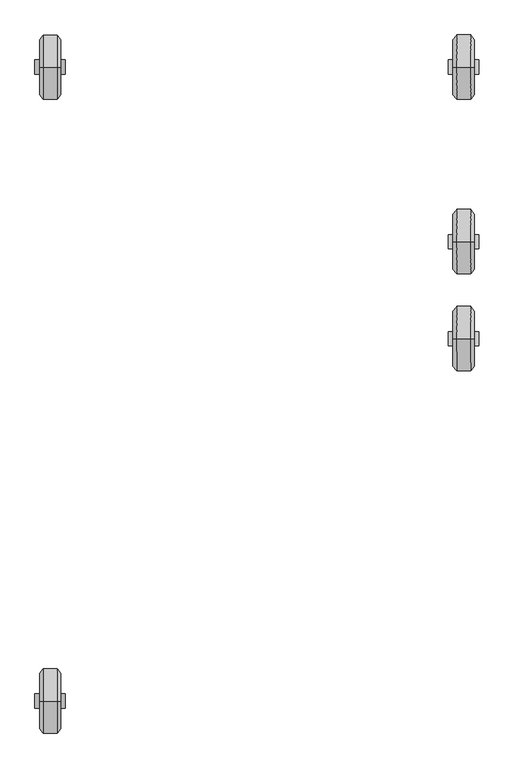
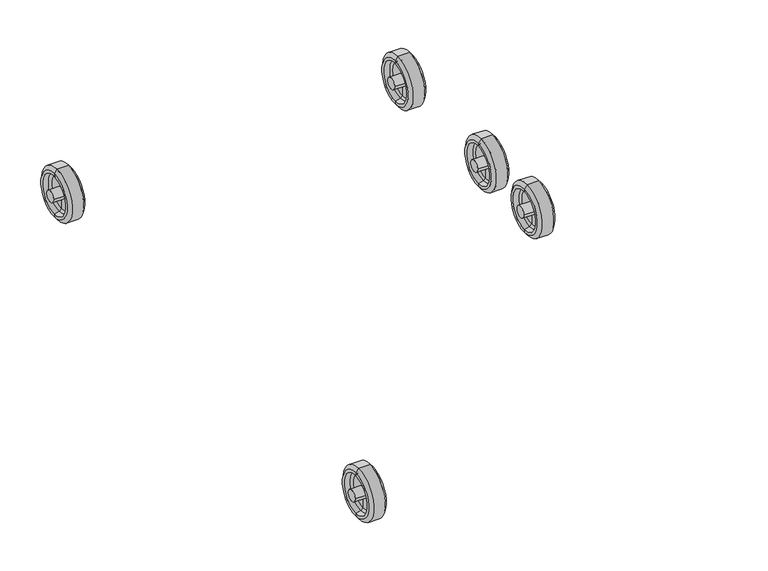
"""IFC4 building model written with IfcOpenShell, lengths in millimetres: proxy geometry, 12290890_D_APDR024 : 59520024_D_12290890_APDR024."""

from ifc_helpers import new_model, si_unit, frame, origin, place, context, project, spatial, polyline, circle_curve, source, transform, mapped, element, save
from ifc_brep_helpers import plane_surface, cylinder_surface, revolved_surface, advanced_brep


def specialty_equipment_95572415(model_context):
    return source(origin(), model_context, "Body", "AdvancedBrep", [
        advanced_brep(
        [(-336.0364395, -79.7871295, 48.7198946), (-336.0364395, -58.1869098, 48.7198946), (-289.9642929, -79.7871295, 48.7198946), (-289.9642929, -58.1869098, 48.7198946), (-315.5003662, -58.1869098, 48.7198946), (-315.5003662, -68.9870197, 37.9197847), (-315.5003662, -79.7871295, 48.7198946), (-310.5038522, -79.7871295, 48.7198946), (-310.5038522, -68.9870197, 37.9197847), (-310.5038522, -58.1869098, 48.7198946), (-315.5003662, -68.9870197, 59.5200044), (-310.5038522, -68.9870197, 59.5200044), (-315.5003662, -68.9870197, 18.1495325), (-315.5003662, -68.9870197, 79.2675668), (-319.3935864, -68.9870197, 83.160787), (-319.3935864, -68.9870197, 14.2563123), (-329.0003662, -68.9870197, 11.8821212), (-329.0003662, -68.9870197, 85.5349781), (-329.0003662, -68.9870197, 90.6387254), (-329.0003662, -68.9870197, 6.7783739), (-323.6582031, -68.9870197, 97.439563), (-323.6582031, -68.9870197, -0.0224636), (-302.3460153, -68.9870197, 97.439563), (-302.3460153, -68.9870197, -0.0224636), (-297.0038522, -68.9870197, 90.6387254), (-297.0038522, -68.9870197, 6.7783739), (-297.0038522, -68.9870197, 85.5349781), (-297.0038522, -68.9870197, 11.8821212), (-310.5038522, -68.9870197, 18.1495325), (-310.5038522, -68.9870197, 79.2675668), (-306.6106321, -68.9870197, 83.160787), (-306.6106321, -68.9870197, 14.2563123)],
        [
            (0, 1, circle_curve(frame((-336.0364395, -68.9870197, 48.7198946), z_axis=(-1.0, 0.0, 0.0), x_axis=(0.0, 1.0, 0.0)), 10.8001099)),
            (1, 0, circle_curve(frame((-336.0364395, -68.9870197, 48.7198946), z_axis=(-1.0, 0.0, 0.0), x_axis=(0.0, 1.0, 0.0)), 10.8001099)),
            (2, 3, circle_curve(frame((-289.9642929, -68.9870197, 48.7198946), z_axis=(1.0, 0.0, 0.0), x_axis=(0.0, 1.0, 0.0)), 10.8001099)),
            (3, 2, circle_curve(frame((-289.9642929, -68.9870197, 48.7198946), z_axis=(1.0, 0.0, 0.0), x_axis=(0.0, 1.0, 0.0)), 10.8001099)),
            (1, 4),
            (4, 5, circle_curve(frame((-315.5003662, -68.9870197, 48.7198946), z_axis=(-1.0, 0.0, 0.0), x_axis=(0.0, 1.0, 0.0)), 10.8001099)),
            (5, 6, circle_curve(frame((-315.5003662, -68.9870197, 48.7198946), z_axis=(-1.0, 0.0, 0.0), x_axis=(0.0, 1.0, 0.0)), 10.8001099)),
            (6, 0),
            (2, 7),
            (7, 8, circle_curve(frame((-310.5038522, -68.9870197, 48.7198946), z_axis=(1.0, 0.0, 0.0), x_axis=(0.0, 1.0, 0.0)), 10.8001099)),
            (8, 9, circle_curve(frame((-310.5038522, -68.9870197, 48.7198946), z_axis=(1.0, 0.0, 0.0), x_axis=(0.0, 1.0, 0.0)), 10.8001099)),
            (9, 3),
            (6, 10, circle_curve(frame((-315.5003662, -68.9870197, 48.7198946), z_axis=(-1.0, 0.0, 0.0), x_axis=(0.0, 1.0, 0.0)), 10.8001099)),
            (10, 4, circle_curve(frame((-315.5003662, -68.9870197, 48.7198946), z_axis=(-1.0, 0.0, 0.0), x_axis=(0.0, 1.0, 0.0)), 10.8001099)),
            (9, 11, circle_curve(frame((-310.5038522, -68.9870197, 48.7198946), z_axis=(1.0, 0.0, 0.0), x_axis=(0.0, 1.0, 0.0)), 10.8001099)),
            (11, 7, circle_curve(frame((-310.5038522, -68.9870197, 48.7198946), z_axis=(1.0, 0.0, 0.0), x_axis=(0.0, 1.0, 0.0)), 10.8001099)),
            (12, 13, circle_curve(frame((-315.5003662, -68.9870197, 48.7085497), z_axis=(1.0, 0.0, 0.0), x_axis=(0.0, 0.0, 1.0)), 30.5590172)),
            (13, 14),
            (14, 15, circle_curve(frame((-319.3935864, -68.9870197, 48.7085497), z_axis=(-1.0, 0.0, 0.0), x_axis=(0.0, 0.0, 1.0)), 34.4522373)),
            (15, 12),
            (13, 12, circle_curve(frame((-315.5003662, -68.9870197, 48.7085497), z_axis=(1.0, 0.0, 0.0), x_axis=(0.0, 0.0, 1.0)), 30.5590172)),
            (15, 14, circle_curve(frame((-319.3935864, -68.9870197, 48.7085497), z_axis=(-1.0, 0.0, 0.0), x_axis=(0.0, 0.0, 1.0)), 34.4522373)),
            (16, 17, circle_curve(frame((-329.0003662, -68.9870197, 48.7085497), z_axis=(1.0, 0.0, 0.0), x_axis=(0.0, 0.0, 1.0)), 36.8264284)),
            (17, 18),
            (18, 19, circle_curve(frame((-329.0003662, -68.9870197, 48.7085497), z_axis=(-1.0, 0.0, 0.0), x_axis=(0.0, 0.0, 1.0)), 41.9301758)),
            (19, 16),
            (17, 16, circle_curve(frame((-329.0003662, -68.9870197, 48.7085497), z_axis=(1.0, 0.0, 0.0), x_axis=(0.0, 0.0, 1.0)), 36.8264284)),
            (19, 18, circle_curve(frame((-329.0003662, -68.9870197, 48.7085497), z_axis=(-1.0, 0.0, 0.0), x_axis=(0.0, 0.0, 1.0)), 41.9301758)),
            (18, 20),
            (20, 21, circle_curve(frame((-323.6582031, -68.9870197, 48.7085497), z_axis=(-1.0, 0.0, 0.0), x_axis=(0.0, 0.0, 1.0)), 48.7310133)),
            (21, 19),
            (21, 20, circle_curve(frame((-323.6582031, -68.9870197, 48.7085497), z_axis=(-1.0, 0.0, 0.0), x_axis=(0.0, 0.0, 1.0)), 48.7310133)),
            (20, 22),
            (22, 23, circle_curve(frame((-302.3460153, -68.9870197, 48.7085497), z_axis=(-1.0, 0.0, 0.0), x_axis=(0.0, 0.0, 1.0)), 48.7310133)),
            (23, 21),
            (23, 22, circle_curve(frame((-302.3460153, -68.9870197, 48.7085497), z_axis=(-1.0, 0.0, 0.0), x_axis=(0.0, 0.0, 1.0)), 48.7310133)),
            (22, 24),
            (24, 25, circle_curve(frame((-297.0038522, -68.9870197, 48.7085497), z_axis=(-1.0, 0.0, 0.0), x_axis=(0.0, 0.0, 1.0)), 41.9301758)),
            (25, 23),
            (25, 24, circle_curve(frame((-297.0038522, -68.9870197, 48.7085497), z_axis=(-1.0, 0.0, 0.0), x_axis=(0.0, 0.0, 1.0)), 41.9301758)),
            (24, 26),
            (26, 27, circle_curve(frame((-297.0038522, -68.9870197, 48.7085497), z_axis=(-1.0, 0.0, 0.0), x_axis=(0.0, 0.0, 1.0)), 36.8264284)),
            (27, 25),
            (27, 26, circle_curve(frame((-297.0038522, -68.9870197, 48.7085497), z_axis=(-1.0, 0.0, 0.0), x_axis=(0.0, 0.0, 1.0)), 36.8264284)),
            (28, 29, circle_curve(frame((-310.5038522, -68.9870197, 48.7085497), z_axis=(1.0, 0.0, 0.0), x_axis=(0.0, 0.0, 1.0)), 30.5590172)),
            (29, 11),
            (8, 28),
            (29, 28, circle_curve(frame((-310.5038522, -68.9870197, 48.7085497), z_axis=(1.0, 0.0, 0.0), x_axis=(0.0, 0.0, 1.0)), 30.5590172)),
            (12, 5),
            (10, 13),
            (14, 17),
            (16, 15),
            (26, 30),
            (30, 31, circle_curve(frame((-306.6106321, -68.9870197, 48.7085497), z_axis=(-1.0, 0.0, 0.0), x_axis=(0.0, 0.0, 1.0)), 34.4522373)),
            (31, 27),
            (31, 30, circle_curve(frame((-306.6106321, -68.9870197, 48.7085497), z_axis=(-1.0, 0.0, 0.0), x_axis=(0.0, 0.0, 1.0)), 34.4522373)),
            (28, 31),
            (30, 29),
        ],
        [
            plane_surface(frame((-336.0364395, -58.1869098, 48.7198946), z_axis=(-1.0, 0.0, 0.0), x_axis=(0.0, 0.0, -1.0))),
            plane_surface(frame((-289.9642929, -58.1869098, 48.7198946), z_axis=(1.0, 0.0, 0.0), x_axis=(0.0, 0.0, 1.0))),
            cylinder_surface(frame((-289.9642929, -68.9870197, 48.7198946), z_axis=(-1.0, 0.0, 0.0), x_axis=(0.0, 1.0, 0.0)), 10.8001099),
            revolved_surface(polyline([(-319.3935864, -68.9870197, 83.160787), (-315.5003662, -68.9870197, 79.2675668)]), (-291.9215088, -68.9870197, 48.7085497), (-1.0, 0.0, 0.0)),
            plane_surface(frame((-329.0003662, -68.9870197, 48.7085497), z_axis=(-1.0, 0.0, 0.0), x_axis=(0.0, 0.0, 1.0))),
            revolved_surface(polyline([(-323.6582031, -68.9870197, 97.439563), (-329.0003662, -68.9870197, 90.6387254)]), (-291.9215088, -68.9870197, 48.7085497), (-1.0, 0.0, 0.0)),
            cylinder_surface(frame((-291.9215088, -68.9870197, 48.7085497), z_axis=(-1.0, 0.0, 0.0), x_axis=(0.0, 0.0, 1.0)), 48.7310133),
            revolved_surface(polyline([(-297.0038522, -68.9870197, 90.6387254), (-302.3460153, -68.9870197, 97.439563)]), (-291.9215088, -68.9870197, 48.7085497), (-1.0, 0.0, 0.0)),
            plane_surface(frame((-297.0038522, -68.9870197, 48.7085497), z_axis=(1.0, 0.0, 0.0), x_axis=(0.0, 0.0, 1.0))),
            plane_surface(frame((-310.5038522, -68.9870197, 48.7085497), z_axis=(1.0, 0.0, 0.0), x_axis=(0.0, 0.0, 1.0))),
            plane_surface(frame((-315.5003662, -68.9870197, 48.7085497), z_axis=(-1.0, 0.0, 0.0), x_axis=(0.0, 0.0, 1.0))),
            revolved_surface(polyline([(-329.0003662, -68.9870197, 85.5349781), (-319.3935864, -68.9870197, 83.160787)]), (-291.9215088, -68.9870197, 48.7085497), (-1.0, 0.0, 0.0)),
            revolved_surface(polyline([(-306.6106321, -68.9870197, 83.160787), (-297.0038522, -68.9870197, 85.5349781)]), (-291.9215088, -68.9870197, 48.7085497), (-1.0, 0.0, 0.0)),
            revolved_surface(polyline([(-310.5038522, -68.9870197, 79.2675668), (-306.6106321, -68.9870197, 83.160787)]), (-291.9215088, -68.9870197, 48.7085497), (-1.0, 0.0, 0.0)),
        ],
        [
            (0, [[1, 2]]),
            (1, [[3, 4]]),
            (2, [[-2, 5, 6, 7, 8]]),
            (2, [[-3, 9, 10, 11, 12]]),
            (2, [[-1, -8, 13, 14, -5]]),
            (2, [[-4, -12, 15, 16, -9]]),
            (3, [[17, 18, 19, 20]]),
            (3, [[-18, 21, -20, 22]]),
            (4, [[23, 24, 25, 26]]),
            (4, [[-24, 27, -26, 28]]),
            (5, [[-25, 29, 30, 31]]),
            (5, [[-28, -31, 32, -29]]),
            (6, [[-30, 33, 34, 35]]),
            (6, [[-32, -35, 36, -33]]),
            (7, [[-34, 37, 38, 39]]),
            (7, [[-36, -39, 40, -37]]),
            (8, [[-38, 41, 42, 43]]),
            (8, [[-40, -43, 44, -41]]),
            (9, [[45, 46, -15, -11, 47]]),
            (9, [[48, -47, -10, -16, -46]]),
            (10, [[-17, 49, -6, -14, 50]]),
            (10, [[-21, -50, -13, -7, -49]]),
            (11, [[-19, 51, -23, 52]]),
            (11, [[-22, -52, -27, -51]]),
            (12, [[-42, 53, 54, 55]]),
            (12, [[-44, -55, 56, -53]]),
            (13, [[-45, 57, -54, 58]]),
            (13, [[-48, -58, -56, -57]]),
        ],
    ),
        advanced_brep(
        [(336.0364395, -79.7871295, 48.7198946), (336.0364395, -58.1869098, 48.7198946), (289.9642929, -79.7871295, 48.7198946), (289.9642929, -58.1869098, 48.7198946), (315.5003662, -79.7871295, 48.7198946), (315.5003662, -68.9870197, 37.9197847), (315.5003662, -58.1869098, 48.7198946), (310.5038522, -58.1869098, 48.7198946), (310.5038522, -68.9870197, 37.9197847), (310.5038522, -79.7871295, 48.7198946), (315.5003662, -68.9870197, 59.5200044), (310.5038522, -68.9870197, 59.5200044), (319.3935864, -68.9870197, 14.2563123), (319.3935864, -68.9870197, 83.160787), (315.5003662, -68.9870197, 79.2675668), (315.5003662, -68.9870197, 18.1495325), (329.0003662, -68.9870197, 6.7783739), (329.0003662, -68.9870197, 90.6387254), (329.0003662, -68.9870197, 85.5349781), (329.0003662, -68.9870197, 11.8821212), (323.6582031, -68.9870197, -0.0224636), (323.6582031, -68.9870197, 97.439563), (302.3460153, -68.9870197, -0.0224636), (302.3460153, -68.9870197, 97.439563), (297.0038522, -68.9870197, 6.7783739), (297.0038522, -68.9870197, 90.6387254), (297.0038522, -68.9870197, 11.8821212), (297.0038522, -68.9870197, 85.5349781), (310.5038522, -68.9870197, 79.2675668), (310.5038522, -68.9870197, 18.1495325), (306.6106321, -68.9870197, 14.2563123), (306.6106321, -68.9870197, 83.160787)],
        [
            (0, 1, circle_curve(frame((336.0364395, -68.9870197, 48.7198946), z_axis=(1.0, 0.0, 0.0), x_axis=(0.0, 1.0, 0.0)), 10.8001099)),
            (1, 0, circle_curve(frame((336.0364395, -68.9870197, 48.7198946), z_axis=(1.0, 0.0, 0.0), x_axis=(0.0, 1.0, 0.0)), 10.8001099)),
            (2, 3, circle_curve(frame((289.9642929, -68.9870197, 48.7198946), z_axis=(-1.0, 0.0, 0.0), x_axis=(0.0, 1.0, 0.0)), 10.8001099)),
            (3, 2, circle_curve(frame((289.9642929, -68.9870197, 48.7198946), z_axis=(-1.0, 0.0, 0.0), x_axis=(0.0, 1.0, 0.0)), 10.8001099)),
            (0, 4),
            (4, 5, circle_curve(frame((315.5003662, -68.9870197, 48.7198946), z_axis=(1.0, 0.0, 0.0), x_axis=(0.0, 1.0, 0.0)), 10.8001099)),
            (5, 6, circle_curve(frame((315.5003662, -68.9870197, 48.7198946), z_axis=(1.0, 0.0, 0.0), x_axis=(0.0, 1.0, 0.0)), 10.8001099)),
            (6, 1),
            (3, 7),
            (7, 8, circle_curve(frame((310.5038522, -68.9870197, 48.7198946), z_axis=(-1.0, 0.0, 0.0), x_axis=(0.0, 1.0, 0.0)), 10.8001099)),
            (8, 9, circle_curve(frame((310.5038522, -68.9870197, 48.7198946), z_axis=(-1.0, 0.0, 0.0), x_axis=(0.0, 1.0, 0.0)), 10.8001099)),
            (9, 2),
            (6, 10, circle_curve(frame((315.5003662, -68.9870197, 48.7198946), z_axis=(1.0, 0.0, 0.0), x_axis=(0.0, 1.0, 0.0)), 10.8001099)),
            (10, 4, circle_curve(frame((315.5003662, -68.9870197, 48.7198946), z_axis=(1.0, 0.0, 0.0), x_axis=(0.0, 1.0, 0.0)), 10.8001099)),
            (9, 11, circle_curve(frame((310.5038522, -68.9870197, 48.7198946), z_axis=(-1.0, 0.0, 0.0), x_axis=(0.0, 1.0, 0.0)), 10.8001099)),
            (11, 7, circle_curve(frame((310.5038522, -68.9870197, 48.7198946), z_axis=(-1.0, 0.0, 0.0), x_axis=(0.0, 1.0, 0.0)), 10.8001099)),
            (12, 13, circle_curve(frame((319.3935864, -68.9870197, 48.7085497), z_axis=(1.0, 0.0, 0.0), x_axis=(0.0, 0.0, 1.0)), 34.4522373)),
            (13, 14),
            (14, 15, circle_curve(frame((315.5003662, -68.9870197, 48.7085497), z_axis=(-1.0, 0.0, 0.0), x_axis=(0.0, 0.0, 1.0)), 30.5590172)),
            (15, 12),
            (13, 12, circle_curve(frame((319.3935864, -68.9870197, 48.7085497), z_axis=(1.0, 0.0, 0.0), x_axis=(0.0, 0.0, 1.0)), 34.4522373)),
            (15, 14, circle_curve(frame((315.5003662, -68.9870197, 48.7085497), z_axis=(-1.0, 0.0, 0.0), x_axis=(0.0, 0.0, 1.0)), 30.5590172)),
            (16, 17, circle_curve(frame((329.0003662, -68.9870197, 48.7085497), z_axis=(1.0, 0.0, 0.0), x_axis=(0.0, 0.0, 1.0)), 41.9301758)),
            (17, 18),
            (18, 19, circle_curve(frame((329.0003662, -68.9870197, 48.7085497), z_axis=(-1.0, 0.0, 0.0), x_axis=(0.0, 0.0, 1.0)), 36.8264284)),
            (19, 16),
            (17, 16, circle_curve(frame((329.0003662, -68.9870197, 48.7085497), z_axis=(1.0, 0.0, 0.0), x_axis=(0.0, 0.0, 1.0)), 41.9301758)),
            (19, 18, circle_curve(frame((329.0003662, -68.9870197, 48.7085497), z_axis=(-1.0, 0.0, 0.0), x_axis=(0.0, 0.0, 1.0)), 36.8264284)),
            (16, 20),
            (20, 21, circle_curve(frame((323.6582031, -68.9870197, 48.7085497), z_axis=(1.0, 0.0, 0.0), x_axis=(0.0, 0.0, 1.0)), 48.7310133)),
            (21, 17),
            (21, 20, circle_curve(frame((323.6582031, -68.9870197, 48.7085497), z_axis=(1.0, 0.0, 0.0), x_axis=(0.0, 0.0, 1.0)), 48.7310133)),
            (20, 22),
            (22, 23, circle_curve(frame((302.3460153, -68.9870197, 48.7085497), z_axis=(1.0, 0.0, 0.0), x_axis=(0.0, 0.0, 1.0)), 48.7310133)),
            (23, 21),
            (23, 22, circle_curve(frame((302.3460153, -68.9870197, 48.7085497), z_axis=(1.0, 0.0, 0.0), x_axis=(0.0, 0.0, 1.0)), 48.7310133)),
            (22, 24),
            (24, 25, circle_curve(frame((297.0038522, -68.9870197, 48.7085497), z_axis=(1.0, 0.0, 0.0), x_axis=(0.0, 0.0, 1.0)), 41.9301758)),
            (25, 23),
            (25, 24, circle_curve(frame((297.0038522, -68.9870197, 48.7085497), z_axis=(1.0, 0.0, 0.0), x_axis=(0.0, 0.0, 1.0)), 41.9301758)),
            (24, 26),
            (26, 27, circle_curve(frame((297.0038522, -68.9870197, 48.7085497), z_axis=(1.0, 0.0, 0.0), x_axis=(0.0, 0.0, 1.0)), 36.8264284)),
            (27, 25),
            (27, 26, circle_curve(frame((297.0038522, -68.9870197, 48.7085497), z_axis=(1.0, 0.0, 0.0), x_axis=(0.0, 0.0, 1.0)), 36.8264284)),
            (28, 29, circle_curve(frame((310.5038522, -68.9870197, 48.7085497), z_axis=(-1.0, 0.0, 0.0), x_axis=(0.0, 0.0, 1.0)), 30.5590172)),
            (29, 8),
            (11, 28),
            (29, 28, circle_curve(frame((310.5038522, -68.9870197, 48.7085497), z_axis=(-1.0, 0.0, 0.0), x_axis=(0.0, 0.0, 1.0)), 30.5590172)),
            (14, 10),
            (5, 15),
            (12, 19),
            (18, 13),
            (26, 30),
            (30, 31, circle_curve(frame((306.6106321, -68.9870197, 48.7085497), z_axis=(1.0, 0.0, 0.0), x_axis=(0.0, 0.0, 1.0)), 34.4522373)),
            (31, 27),
            (31, 30, circle_curve(frame((306.6106321, -68.9870197, 48.7085497), z_axis=(1.0, 0.0, 0.0), x_axis=(0.0, 0.0, 1.0)), 34.4522373)),
            (28, 31),
            (30, 29),
        ],
        [
            plane_surface(frame((336.0364395, -58.1869098, 48.7198946), z_axis=(1.0, 0.0, 0.0), x_axis=(0.0, 0.0, 1.0))),
            plane_surface(frame((289.9642929, -58.1869098, 48.7198946), z_axis=(-1.0, 0.0, 0.0), x_axis=(0.0, 0.0, -1.0))),
            cylinder_surface(frame((289.9642929, -68.9870197, 48.7198946), z_axis=(1.0, 0.0, 0.0), x_axis=(0.0, 1.0, 0.0)), 10.8001099),
            revolved_surface(polyline([(315.5003662, -68.9870197, 79.2675668), (319.3935864, -68.9870197, 83.160787)]), (291.9215088, -68.9870197, 48.7085497), (-1.0, 0.0, 0.0)),
            plane_surface(frame((329.0003662, -68.9870197, 48.7085497), z_axis=(1.0, 0.0, 0.0), x_axis=(0.0, 0.0, 1.0))),
            revolved_surface(polyline([(329.0003662, -68.9870197, 90.6387254), (323.6582031, -68.9870197, 97.439563)]), (291.9215088, -68.9870197, 48.7085497), (-1.0, 0.0, 0.0)),
            cylinder_surface(frame((291.9215088, -68.9870197, 48.7085497), z_axis=(-1.0, 0.0, 0.0), x_axis=(0.0, 0.0, 1.0)), 48.7310133),
            revolved_surface(polyline([(302.3460153, -68.9870197, 97.439563), (297.0038522, -68.9870197, 90.6387254)]), (291.9215088, -68.9870197, 48.7085497), (-1.0, 0.0, 0.0)),
            plane_surface(frame((297.0038522, -68.9870197, 48.7085497), z_axis=(-1.0, 0.0, 0.0), x_axis=(0.0, 0.0, 1.0))),
            plane_surface(frame((310.5038522, -68.9870197, 48.7085497), z_axis=(-1.0, 0.0, 0.0), x_axis=(0.0, 0.0, 1.0))),
            plane_surface(frame((315.5003662, -68.9870197, 48.7085497), z_axis=(1.0, 0.0, 0.0), x_axis=(0.0, 0.0, 1.0))),
            revolved_surface(polyline([(319.3935864, -68.9870197, 83.160787), (329.0003662, -68.9870197, 85.5349781)]), (291.9215088, -68.9870197, 48.7085497), (-1.0, 0.0, 0.0)),
            revolved_surface(polyline([(297.0038522, -68.9870197, 85.5349781), (306.6106321, -68.9870197, 83.160787)]), (291.9215088, -68.9870197, 48.7085497), (-1.0, 0.0, 0.0)),
            revolved_surface(polyline([(306.6106321, -68.9870197, 83.160787), (310.5038522, -68.9870197, 79.2675668)]), (291.9215088, -68.9870197, 48.7085497), (-1.0, 0.0, 0.0)),
        ],
        [
            (0, [[1, 2]]),
            (1, [[3, 4]]),
            (2, [[-1, 5, 6, 7, 8]]),
            (2, [[-4, 9, 10, 11, 12]]),
            (2, [[-2, -8, 13, 14, -5]]),
            (2, [[-3, -12, 15, 16, -9]]),
            (3, [[17, 18, 19, 20]]),
            (3, [[-18, 21, -20, 22]]),
            (4, [[23, 24, 25, 26]]),
            (4, [[-24, 27, -26, 28]]),
            (5, [[-23, 29, 30, 31]]),
            (5, [[-27, -31, 32, -29]]),
            (6, [[-30, 33, 34, 35]]),
            (6, [[-32, -35, 36, -33]]),
            (7, [[-34, 37, 38, 39]]),
            (7, [[-36, -39, 40, -37]]),
            (8, [[-38, 41, 42, 43]]),
            (8, [[-40, -43, 44, -41]]),
            (9, [[45, 46, -10, -16, 47]]),
            (9, [[48, -47, -15, -11, -46]]),
            (10, [[-19, 49, -13, -7, 50]]),
            (10, [[-22, -50, -6, -14, -49]]),
            (11, [[-17, 51, -25, 52]]),
            (11, [[-21, -52, -28, -51]]),
            (12, [[-42, 53, 54, 55]]),
            (12, [[-44, -55, 56, -53]]),
            (13, [[-45, 57, -54, 58]]),
            (13, [[-48, -58, -56, -57]]),
        ],
    ),
        advanced_brep(
        [(336.0364395, -343.78537, 48.7198946), (336.0364395, -322.1851503, 48.7198946), (289.9642929, -343.78537, 48.7198946), (289.9642929, -322.1851503, 48.7198946), (315.5003662, -343.78537, 48.7198946), (315.5003662, -332.9852602, 37.9197847), (315.5003662, -322.1851503, 48.7198946), (310.5038522, -322.1851503, 48.7198946), (310.5038522, -332.9852602, 37.9197847), (310.5038522, -343.78537, 48.7198946), (315.5003662, -332.9852602, 59.5200044), (310.5038522, -332.9852602, 59.5200044), (319.3935864, -332.9852602, 14.3571192), (319.3935864, -332.9852602, 83.2615938), (315.5003662, -332.9852602, 79.3683737), (315.5003662, -332.9852602, 18.2503393), (329.0003662, -332.9852602, 6.8791807), (329.0003662, -332.9852602, 90.7395323), (329.0003662, -332.9852602, 85.635785), (329.0003662, -332.9852602, 11.9829281), (323.6582031, -332.9852602, 0.0783432), (323.6582031, -332.9852602, 97.5403698), (302.3460153, -332.9852602, 0.0783432), (302.3460153, -332.9852602, 97.5403698), (297.0038522, -332.9852602, 6.8791807), (297.0038522, -332.9852602, 90.7395323), (297.0038522, -332.9852602, 11.9829281), (297.0038522, -332.9852602, 85.635785), (310.5038522, -332.9852602, 79.3683737), (310.5038522, -332.9852602, 18.2503393), (306.6106321, -332.9852602, 14.3571192), (306.6106321, -332.9852602, 83.2615938)],
        [
            (0, 1, circle_curve(frame((336.0364395, -332.9852602, 48.7198946), z_axis=(1.0, 0.0, 0.0), x_axis=(0.0, 1.0, 0.0)), 10.8001099)),
            (1, 0, circle_curve(frame((336.0364395, -332.9852602, 48.7198946), z_axis=(1.0, 0.0, 0.0), x_axis=(0.0, 1.0, 0.0)), 10.8001099)),
            (2, 3, circle_curve(frame((289.9642929, -332.9852602, 48.7198946), z_axis=(-1.0, 0.0, 0.0), x_axis=(0.0, 1.0, 0.0)), 10.8001099)),
            (3, 2, circle_curve(frame((289.9642929, -332.9852602, 48.7198946), z_axis=(-1.0, 0.0, 0.0), x_axis=(0.0, 1.0, 0.0)), 10.8001099)),
            (0, 4),
            (4, 5, circle_curve(frame((315.5003662, -332.9852602, 48.7198946), z_axis=(1.0, 0.0, 0.0), x_axis=(0.0, 1.0, 0.0)), 10.8001099)),
            (5, 6, circle_curve(frame((315.5003662, -332.9852602, 48.7198946), z_axis=(1.0, 0.0, 0.0), x_axis=(0.0, 1.0, 0.0)), 10.8001099)),
            (6, 1),
            (3, 7),
            (7, 8, circle_curve(frame((310.5038522, -332.9852602, 48.7198946), z_axis=(-1.0, 0.0, 0.0), x_axis=(0.0, 1.0, 0.0)), 10.8001099)),
            (8, 9, circle_curve(frame((310.5038522, -332.9852602, 48.7198946), z_axis=(-1.0, 0.0, 0.0), x_axis=(0.0, 1.0, 0.0)), 10.8001099)),
            (9, 2),
            (6, 10, circle_curve(frame((315.5003662, -332.9852602, 48.7198946), z_axis=(1.0, 0.0, 0.0), x_axis=(0.0, 1.0, 0.0)), 10.8001099)),
            (10, 4, circle_curve(frame((315.5003662, -332.9852602, 48.7198946), z_axis=(1.0, 0.0, 0.0), x_axis=(0.0, 1.0, 0.0)), 10.8001099)),
            (9, 11, circle_curve(frame((310.5038522, -332.9852602, 48.7198946), z_axis=(-1.0, 0.0, 0.0), x_axis=(0.0, 1.0, 0.0)), 10.8001099)),
            (11, 7, circle_curve(frame((310.5038522, -332.9852602, 48.7198946), z_axis=(-1.0, 0.0, 0.0), x_axis=(0.0, 1.0, 0.0)), 10.8001099)),
            (12, 13, circle_curve(frame((319.3935864, -332.9852602, 48.8093565), z_axis=(1.0, 0.0, 0.0), x_axis=(0.0, 0.0, 1.0)), 34.4522373)),
            (13, 14),
            (14, 15, circle_curve(frame((315.5003662, -332.9852602, 48.8093565), z_axis=(-1.0, 0.0, 0.0), x_axis=(0.0, 0.0, 1.0)), 30.5590172)),
            (15, 12),
            (13, 12, circle_curve(frame((319.3935864, -332.9852602, 48.8093565), z_axis=(1.0, 0.0, 0.0), x_axis=(0.0, 0.0, 1.0)), 34.4522373)),
            (15, 14, circle_curve(frame((315.5003662, -332.9852602, 48.8093565), z_axis=(-1.0, 0.0, 0.0), x_axis=(0.0, 0.0, 1.0)), 30.5590172)),
            (16, 17, circle_curve(frame((329.0003662, -332.9852602, 48.8093565), z_axis=(1.0, 0.0, 0.0), x_axis=(0.0, 0.0, 1.0)), 41.9301758)),
            (17, 18),
            (18, 19, circle_curve(frame((329.0003662, -332.9852602, 48.8093565), z_axis=(-1.0, 0.0, 0.0), x_axis=(0.0, 0.0, 1.0)), 36.8264284)),
            (19, 16),
            (17, 16, circle_curve(frame((329.0003662, -332.9852602, 48.8093565), z_axis=(1.0, 0.0, 0.0), x_axis=(0.0, 0.0, 1.0)), 41.9301758)),
            (19, 18, circle_curve(frame((329.0003662, -332.9852602, 48.8093565), z_axis=(-1.0, 0.0, 0.0), x_axis=(0.0, 0.0, 1.0)), 36.8264284)),
            (16, 20),
            (20, 21, circle_curve(frame((323.6582031, -332.9852602, 48.8093565), z_axis=(1.0, 0.0, 0.0), x_axis=(0.0, 0.0, 1.0)), 48.7310133)),
            (21, 17),
            (21, 20, circle_curve(frame((323.6582031, -332.9852602, 48.8093565), z_axis=(1.0, 0.0, 0.0), x_axis=(0.0, 0.0, 1.0)), 48.7310133)),
            (20, 22),
            (22, 23, circle_curve(frame((302.3460153, -332.9852602, 48.8093565), z_axis=(1.0, 0.0, 0.0), x_axis=(0.0, 0.0, 1.0)), 48.7310133)),
            (23, 21),
            (23, 22, circle_curve(frame((302.3460153, -332.9852602, 48.8093565), z_axis=(1.0, 0.0, 0.0), x_axis=(0.0, 0.0, 1.0)), 48.7310133)),
            (22, 24),
            (24, 25, circle_curve(frame((297.0038522, -332.9852602, 48.8093565), z_axis=(1.0, 0.0, 0.0), x_axis=(0.0, 0.0, 1.0)), 41.9301758)),
            (25, 23),
            (25, 24, circle_curve(frame((297.0038522, -332.9852602, 48.8093565), z_axis=(1.0, 0.0, 0.0), x_axis=(0.0, 0.0, 1.0)), 41.9301758)),
            (24, 26),
            (26, 27, circle_curve(frame((297.0038522, -332.9852602, 48.8093565), z_axis=(1.0, 0.0, 0.0), x_axis=(0.0, 0.0, 1.0)), 36.8264284)),
            (27, 25),
            (27, 26, circle_curve(frame((297.0038522, -332.9852602, 48.8093565), z_axis=(1.0, 0.0, 0.0), x_axis=(0.0, 0.0, 1.0)), 36.8264284)),
            (28, 29, circle_curve(frame((310.5038522, -332.9852602, 48.8093565), z_axis=(-1.0, 0.0, 0.0), x_axis=(0.0, 0.0, 1.0)), 30.5590172)),
            (29, 8),
            (11, 28),
            (29, 28, circle_curve(frame((310.5038522, -332.9852602, 48.8093565), z_axis=(-1.0, 0.0, 0.0), x_axis=(0.0, 0.0, 1.0)), 30.5590172)),
            (14, 10),
            (5, 15),
            (12, 19),
            (18, 13),
            (26, 30),
            (30, 31, circle_curve(frame((306.6106321, -332.9852602, 48.8093565), z_axis=(1.0, 0.0, 0.0), x_axis=(0.0, 0.0, 1.0)), 34.4522373)),
            (31, 27),
            (31, 30, circle_curve(frame((306.6106321, -332.9852602, 48.8093565), z_axis=(1.0, 0.0, 0.0), x_axis=(0.0, 0.0, 1.0)), 34.4522373)),
            (28, 31),
            (30, 29),
        ],
        [
            plane_surface(frame((336.0364395, -322.1851503, 48.7198946), z_axis=(1.0, 0.0, 0.0), x_axis=(0.0, 0.0, 1.0))),
            plane_surface(frame((289.9642929, -322.1851503, 48.7198946), z_axis=(-1.0, 0.0, 0.0), x_axis=(0.0, 0.0, -1.0))),
            cylinder_surface(frame((289.9642929, -332.9852602, 48.7198946), z_axis=(1.0, 0.0, 0.0), x_axis=(0.0, 1.0, 0.0)), 10.8001099),
            revolved_surface(polyline([(315.5003662, -332.9852602, 79.3683737), (319.3935864, -332.9852602, 83.2615938)]), (291.9215088, -332.9852602, 48.8093565), (-1.0, 0.0, 0.0)),
            plane_surface(frame((329.0003662, -332.9852602, 48.8093565), z_axis=(1.0, 0.0, 0.0), x_axis=(0.0, 0.0, 1.0))),
            revolved_surface(polyline([(329.0003662, -332.9852602, 90.7395323), (323.6582031, -332.9852602, 97.5403698)]), (291.9215088, -332.9852602, 48.8093565), (-1.0, 0.0, 0.0)),
            cylinder_surface(frame((291.9215088, -332.9852602, 48.8093565), z_axis=(-1.0, 0.0, 0.0), x_axis=(0.0, 0.0, 1.0)), 48.7310133),
            revolved_surface(polyline([(302.3460153, -332.9852602, 97.5403698), (297.0038522, -332.9852602, 90.7395323)]), (291.9215088, -332.9852602, 48.8093565), (-1.0, 0.0, 0.0)),
            plane_surface(frame((297.0038522, -332.9852602, 48.8093565), z_axis=(-1.0, 0.0, 0.0), x_axis=(0.0, 0.0, 1.0))),
            plane_surface(frame((310.5038522, -332.9852602, 48.8093565), z_axis=(-1.0, 0.0, 0.0), x_axis=(0.0, 0.0, 1.0))),
            plane_surface(frame((315.5003662, -332.9852602, 48.8093565), z_axis=(1.0, 0.0, 0.0), x_axis=(0.0, 0.0, 1.0))),
            revolved_surface(polyline([(319.3935864, -332.9852602, 83.2615938), (329.0003662, -332.9852602, 85.635785)]), (291.9215088, -332.9852602, 48.8093565), (-1.0, 0.0, 0.0)),
            revolved_surface(polyline([(297.0038522, -332.9852602, 85.635785), (306.6106321, -332.9852602, 83.2615938)]), (291.9215088, -332.9852602, 48.8093565), (-1.0, 0.0, 0.0)),
            revolved_surface(polyline([(306.6106321, -332.9852602, 83.2615938), (310.5038522, -332.9852602, 79.3683737)]), (291.9215088, -332.9852602, 48.8093565), (-1.0, 0.0, 0.0)),
        ],
        [
            (0, [[1, 2]]),
            (1, [[3, 4]]),
            (2, [[-1, 5, 6, 7, 8]]),
            (2, [[-4, 9, 10, 11, 12]]),
            (2, [[-2, -8, 13, 14, -5]]),
            (2, [[-3, -12, 15, 16, -9]]),
            (3, [[17, 18, 19, 20]]),
            (3, [[-18, 21, -20, 22]]),
            (4, [[23, 24, 25, 26]]),
            (4, [[-24, 27, -26, 28]]),
            (5, [[-23, 29, 30, 31]]),
            (5, [[-27, -31, 32, -29]]),
            (6, [[-30, 33, 34, 35]]),
            (6, [[-32, -35, 36, -33]]),
            (7, [[-34, 37, 38, 39]]),
            (7, [[-36, -39, 40, -37]]),
            (8, [[-38, 41, 42, 43]]),
            (8, [[-40, -43, 44, -41]]),
            (9, [[45, 46, -10, -16, 47]]),
            (9, [[48, -47, -15, -11, -46]]),
            (10, [[-19, 49, -13, -7, 50]]),
            (10, [[-22, -50, -6, -14, -49]]),
            (11, [[-17, 51, -25, 52]]),
            (11, [[-21, -52, -28, -51]]),
            (12, [[-42, 53, 54, 55]]),
            (12, [[-44, -55, 56, -53]]),
            (13, [[-45, 57, -54, 58]]),
            (13, [[-48, -58, -56, -57]]),
        ],
    ),
        advanced_brep(
        [(336.0364395, -490.5038817, 48.7198946), (336.0364395, -468.903662, 48.7198946), (289.9642929, -490.5038817, 48.7198946), (289.9642929, -468.903662, 48.7198946), (315.5003662, -490.5038817, 48.7198946), (315.5003662, -479.7037719, 37.9197847), (315.5003662, -468.903662, 48.7198946), (310.5038522, -468.903662, 48.7198946), (310.5038522, -479.7037719, 37.9197847), (310.5038522, -490.5038817, 48.7198946), (315.5003662, -479.7037719, 59.5200044), (310.5038522, -479.7037719, 59.5200044), (319.3935864, -479.7037719, 14.2563123), (319.3935864, -479.7037719, 83.160787), (315.5003662, -479.7037719, 79.2675668), (315.5003662, -479.7037719, 18.1495325), (329.0003662, -479.7037719, 6.7783739), (329.0003662, -479.7037719, 90.6387254), (329.0003662, -479.7037719, 85.5349781), (329.0003662, -479.7037719, 11.8821212), (323.6582031, -479.7037719, -0.0224636), (323.6582031, -479.7037719, 97.439563), (302.3460153, -479.7037719, -0.0224636), (302.3460153, -479.7037719, 97.439563), (297.0038522, -479.7037719, 6.7783739), (297.0038522, -479.7037719, 90.6387254), (297.0038522, -479.7037719, 11.8821212), (297.0038522, -479.7037719, 85.5349781), (310.5038522, -479.7037719, 79.2675668), (310.5038522, -479.7037719, 18.1495325), (306.6106321, -479.7037719, 14.2563123), (306.6106321, -479.7037719, 83.160787)],
        [
            (0, 1, circle_curve(frame((336.0364395, -479.7037719, 48.7198946), z_axis=(1.0, 0.0, 0.0), x_axis=(0.0, 1.0, 0.0)), 10.8001099)),
            (1, 0, circle_curve(frame((336.0364395, -479.7037719, 48.7198946), z_axis=(1.0, 0.0, 0.0), x_axis=(0.0, 1.0, 0.0)), 10.8001099)),
            (2, 3, circle_curve(frame((289.9642929, -479.7037719, 48.7198946), z_axis=(-1.0, 0.0, 0.0), x_axis=(0.0, 1.0, 0.0)), 10.8001099)),
            (3, 2, circle_curve(frame((289.9642929, -479.7037719, 48.7198946), z_axis=(-1.0, 0.0, 0.0), x_axis=(0.0, 1.0, 0.0)), 10.8001099)),
            (0, 4),
            (4, 5, circle_curve(frame((315.5003662, -479.7037719, 48.7198946), z_axis=(1.0, 0.0, 0.0), x_axis=(0.0, 1.0, 0.0)), 10.8001099)),
            (5, 6, circle_curve(frame((315.5003662, -479.7037719, 48.7198946), z_axis=(1.0, 0.0, 0.0), x_axis=(0.0, 1.0, 0.0)), 10.8001099)),
            (6, 1),
            (3, 7),
            (7, 8, circle_curve(frame((310.5038522, -479.7037719, 48.7198946), z_axis=(-1.0, 0.0, 0.0), x_axis=(0.0, 1.0, 0.0)), 10.8001099)),
            (8, 9, circle_curve(frame((310.5038522, -479.7037719, 48.7198946), z_axis=(-1.0, 0.0, 0.0), x_axis=(0.0, 1.0, 0.0)), 10.8001099)),
            (9, 2),
            (6, 10, circle_curve(frame((315.5003662, -479.7037719, 48.7198946), z_axis=(1.0, 0.0, 0.0), x_axis=(0.0, 1.0, 0.0)), 10.8001099)),
            (10, 4, circle_curve(frame((315.5003662, -479.7037719, 48.7198946), z_axis=(1.0, 0.0, 0.0), x_axis=(0.0, 1.0, 0.0)), 10.8001099)),
            (9, 11, circle_curve(frame((310.5038522, -479.7037719, 48.7198946), z_axis=(-1.0, 0.0, 0.0), x_axis=(0.0, 1.0, 0.0)), 10.8001099)),
            (11, 7, circle_curve(frame((310.5038522, -479.7037719, 48.7198946), z_axis=(-1.0, 0.0, 0.0), x_axis=(0.0, 1.0, 0.0)), 10.8001099)),
            (12, 13, circle_curve(frame((319.3935864, -479.7037719, 48.7085497), z_axis=(1.0, 0.0, 0.0), x_axis=(0.0, 0.0, 1.0)), 34.4522373)),
            (13, 14),
            (14, 15, circle_curve(frame((315.5003662, -479.7037719, 48.7085497), z_axis=(-1.0, 0.0, 0.0), x_axis=(0.0, 0.0, 1.0)), 30.5590172)),
            (15, 12),
            (13, 12, circle_curve(frame((319.3935864, -479.7037719, 48.7085497), z_axis=(1.0, 0.0, 0.0), x_axis=(0.0, 0.0, 1.0)), 34.4522373)),
            (15, 14, circle_curve(frame((315.5003662, -479.7037719, 48.7085497), z_axis=(-1.0, 0.0, 0.0), x_axis=(0.0, 0.0, 1.0)), 30.5590172)),
            (16, 17, circle_curve(frame((329.0003662, -479.7037719, 48.7085497), z_axis=(1.0, 0.0, 0.0), x_axis=(0.0, 0.0, 1.0)), 41.9301758)),
            (17, 18),
            (18, 19, circle_curve(frame((329.0003662, -479.7037719, 48.7085497), z_axis=(-1.0, 0.0, 0.0), x_axis=(0.0, 0.0, 1.0)), 36.8264284)),
            (19, 16),
            (17, 16, circle_curve(frame((329.0003662, -479.7037719, 48.7085497), z_axis=(1.0, 0.0, 0.0), x_axis=(0.0, 0.0, 1.0)), 41.9301758)),
            (19, 18, circle_curve(frame((329.0003662, -479.7037719, 48.7085497), z_axis=(-1.0, 0.0, 0.0), x_axis=(0.0, 0.0, 1.0)), 36.8264284)),
            (16, 20),
            (20, 21, circle_curve(frame((323.6582031, -479.7037719, 48.7085497), z_axis=(1.0, 0.0, 0.0), x_axis=(0.0, 0.0, 1.0)), 48.7310133)),
            (21, 17),
            (21, 20, circle_curve(frame((323.6582031, -479.7037719, 48.7085497), z_axis=(1.0, 0.0, 0.0), x_axis=(0.0, 0.0, 1.0)), 48.7310133)),
            (20, 22),
            (22, 23, circle_curve(frame((302.3460153, -479.7037719, 48.7085497), z_axis=(1.0, 0.0, 0.0), x_axis=(0.0, 0.0, 1.0)), 48.7310133)),
            (23, 21),
            (23, 22, circle_curve(frame((302.3460153, -479.7037719, 48.7085497), z_axis=(1.0, 0.0, 0.0), x_axis=(0.0, 0.0, 1.0)), 48.7310133)),
            (22, 24),
            (24, 25, circle_curve(frame((297.0038522, -479.7037719, 48.7085497), z_axis=(1.0, 0.0, 0.0), x_axis=(0.0, 0.0, 1.0)), 41.9301758)),
            (25, 23),
            (25, 24, circle_curve(frame((297.0038522, -479.7037719, 48.7085497), z_axis=(1.0, 0.0, 0.0), x_axis=(0.0, 0.0, 1.0)), 41.9301758)),
            (24, 26),
            (26, 27, circle_curve(frame((297.0038522, -479.7037719, 48.7085497), z_axis=(1.0, 0.0, 0.0), x_axis=(0.0, 0.0, 1.0)), 36.8264284)),
            (27, 25),
            (27, 26, circle_curve(frame((297.0038522, -479.7037719, 48.7085497), z_axis=(1.0, 0.0, 0.0), x_axis=(0.0, 0.0, 1.0)), 36.8264284)),
            (28, 29, circle_curve(frame((310.5038522, -479.7037719, 48.7085497), z_axis=(-1.0, 0.0, 0.0), x_axis=(0.0, 0.0, 1.0)), 30.5590172)),
            (29, 8),
            (11, 28),
            (29, 28, circle_curve(frame((310.5038522, -479.7037719, 48.7085497), z_axis=(-1.0, 0.0, 0.0), x_axis=(0.0, 0.0, 1.0)), 30.5590172)),
            (14, 10),
            (5, 15),
            (12, 19),
            (18, 13),
            (26, 30),
            (30, 31, circle_curve(frame((306.6106321, -479.7037719, 48.7085497), z_axis=(1.0, 0.0, 0.0), x_axis=(0.0, 0.0, 1.0)), 34.4522373)),
            (31, 27),
            (31, 30, circle_curve(frame((306.6106321, -479.7037719, 48.7085497), z_axis=(1.0, 0.0, 0.0), x_axis=(0.0, 0.0, 1.0)), 34.4522373)),
            (28, 31),
            (30, 29),
        ],
        [
            plane_surface(frame((336.0364395, -468.903662, 48.7198946), z_axis=(1.0, 0.0, 0.0), x_axis=(0.0, 0.0, 1.0))),
            plane_surface(frame((289.9642929, -468.903662, 48.7198946), z_axis=(-1.0, 0.0, 0.0), x_axis=(0.0, 0.0, -1.0))),
            cylinder_surface(frame((289.9642929, -479.7037719, 48.7198946), z_axis=(1.0, 0.0, 0.0), x_axis=(0.0, 1.0, 0.0)), 10.8001099),
            revolved_surface(polyline([(315.5003662, -479.7037719, 79.2675668), (319.3935864, -479.7037719, 83.160787)]), (291.9215088, -479.7037719, 48.7085497), (-1.0, 0.0, 0.0)),
            plane_surface(frame((329.0003662, -479.7037719, 48.7085497), z_axis=(1.0, 0.0, 0.0), x_axis=(0.0, 0.0, 1.0))),
            revolved_surface(polyline([(329.0003662, -479.7037719, 90.6387254), (323.6582031, -479.7037719, 97.439563)]), (291.9215088, -479.7037719, 48.7085497), (-1.0, 0.0, 0.0)),
            cylinder_surface(frame((291.9215088, -479.7037719, 48.7085497), z_axis=(-1.0, 0.0, 0.0), x_axis=(0.0, 0.0, 1.0)), 48.7310133),
            revolved_surface(polyline([(302.3460153, -479.7037719, 97.439563), (297.0038522, -479.7037719, 90.6387254)]), (291.9215088, -479.7037719, 48.7085497), (-1.0, 0.0, 0.0)),
            plane_surface(frame((297.0038522, -479.7037719, 48.7085497), z_axis=(-1.0, 0.0, 0.0), x_axis=(0.0, 0.0, 1.0))),
            plane_surface(frame((310.5038522, -479.7037719, 48.7085497), z_axis=(-1.0, 0.0, 0.0), x_axis=(0.0, 0.0, 1.0))),
            plane_surface(frame((315.5003662, -479.7037719, 48.7085497), z_axis=(1.0, 0.0, 0.0), x_axis=(0.0, 0.0, 1.0))),
            revolved_surface(polyline([(319.3935864, -479.7037719, 83.160787), (329.0003662, -479.7037719, 85.5349781)]), (291.9215088, -479.7037719, 48.7085497), (-1.0, 0.0, 0.0)),
            revolved_surface(polyline([(297.0038522, -479.7037719, 85.5349781), (306.6106321, -479.7037719, 83.160787)]), (291.9215088, -479.7037719, 48.7085497), (-1.0, 0.0, 0.0)),
            revolved_surface(polyline([(306.6106321, -479.7037719, 83.160787), (310.5038522, -479.7037719, 79.2675668)]), (291.9215088, -479.7037719, 48.7085497), (-1.0, 0.0, 0.0)),
        ],
        [
            (0, [[1, 2]]),
            (1, [[3, 4]]),
            (2, [[-1, 5, 6, 7, 8]]),
            (2, [[-4, 9, 10, 11, 12]]),
            (2, [[-2, -8, 13, 14, -5]]),
            (2, [[-3, -12, 15, 16, -9]]),
            (3, [[17, 18, 19, 20]]),
            (3, [[-18, 21, -20, 22]]),
            (4, [[23, 24, 25, 26]]),
            (4, [[-24, 27, -26, 28]]),
            (5, [[-23, 29, 30, 31]]),
            (5, [[-27, -31, 32, -29]]),
            (6, [[-30, 33, 34, 35]]),
            (6, [[-32, -35, 36, -33]]),
            (7, [[-34, 37, 38, 39]]),
            (7, [[-36, -39, 40, -37]]),
            (8, [[-38, 41, 42, 43]]),
            (8, [[-40, -43, 44, -41]]),
            (9, [[45, 46, -10, -16, 47]]),
            (9, [[48, -47, -15, -11, -46]]),
            (10, [[-19, 49, -13, -7, 50]]),
            (10, [[-22, -50, -6, -14, -49]]),
            (11, [[-17, 51, -25, 52]]),
            (11, [[-21, -52, -28, -51]]),
            (12, [[-42, 53, 54, 55]]),
            (12, [[-44, -55, 56, -53]]),
            (13, [[-45, 57, -54, 58]]),
            (13, [[-48, -58, -56, -57]]),
        ],
    ),
        advanced_brep(
        [(-336.0364395, -1038.5204408, 48.7198946), (-336.0364395, -1016.920221, 48.7198946), (-289.9642929, -1038.5204408, 48.7198946), (-289.9642929, -1016.920221, 48.7198946), (-315.5003662, -1016.920221, 48.7198946), (-315.5003662, -1027.7203309, 37.9197847), (-315.5003662, -1038.5204408, 48.7198946), (-310.5038522, -1038.5204408, 48.7198946), (-310.5038522, -1027.7203309, 37.9197847), (-310.5038522, -1016.920221, 48.7198946), (-315.5003662, -1027.7203309, 59.5200044), (-310.5038522, -1027.7203309, 59.5200044), (-315.5003662, -1027.7203309, 18.1495325), (-315.5003662, -1027.7203309, 79.2675668), (-319.3935864, -1027.7203309, 83.160787), (-319.3935864, -1027.7203309, 14.2563123), (-329.0003662, -1027.7203309, 11.8821212), (-329.0003662, -1027.7203309, 85.5349781), (-329.0003662, -1027.7203309, 90.6387254), (-329.0003662, -1027.7203309, 6.7783739), (-323.6582031, -1027.7203309, 97.439563), (-323.6582031, -1027.7203309, -0.0224636), (-302.3460153, -1027.7203309, 97.439563), (-302.3460153, -1027.7203309, -0.0224636), (-297.0038522, -1027.7203309, 90.6387254), (-297.0038522, -1027.7203309, 6.7783739), (-297.0038522, -1027.7203309, 85.5349781), (-297.0038522, -1027.7203309, 11.8821212), (-310.5038522, -1027.7203309, 18.1495325), (-310.5038522, -1027.7203309, 79.2675668), (-306.6106321, -1027.7203309, 83.160787), (-306.6106321, -1027.7203309, 14.2563123)],
        [
            (0, 1, circle_curve(frame((-336.0364395, -1027.7203309, 48.7198946), z_axis=(-1.0, 0.0, 0.0), x_axis=(0.0, 1.0, 0.0)), 10.8001099)),
            (1, 0, circle_curve(frame((-336.0364395, -1027.7203309, 48.7198946), z_axis=(-1.0, 0.0, 0.0), x_axis=(0.0, 1.0, 0.0)), 10.8001099)),
            (2, 3, circle_curve(frame((-289.9642929, -1027.7203309, 48.7198946), z_axis=(1.0, 0.0, 0.0), x_axis=(0.0, 1.0, 0.0)), 10.8001099)),
            (3, 2, circle_curve(frame((-289.9642929, -1027.7203309, 48.7198946), z_axis=(1.0, 0.0, 0.0), x_axis=(0.0, 1.0, 0.0)), 10.8001099)),
            (1, 4),
            (4, 5, circle_curve(frame((-315.5003662, -1027.7203309, 48.7198946), z_axis=(-1.0, 0.0, 0.0), x_axis=(0.0, 1.0, 0.0)), 10.8001099)),
            (5, 6, circle_curve(frame((-315.5003662, -1027.7203309, 48.7198946), z_axis=(-1.0, 0.0, 0.0), x_axis=(0.0, 1.0, 0.0)), 10.8001099)),
            (6, 0),
            (2, 7),
            (7, 8, circle_curve(frame((-310.5038522, -1027.7203309, 48.7198946), z_axis=(1.0, 0.0, 0.0), x_axis=(0.0, 1.0, 0.0)), 10.8001099)),
            (8, 9, circle_curve(frame((-310.5038522, -1027.7203309, 48.7198946), z_axis=(1.0, 0.0, 0.0), x_axis=(0.0, 1.0, 0.0)), 10.8001099)),
            (9, 3),
            (6, 10, circle_curve(frame((-315.5003662, -1027.7203309, 48.7198946), z_axis=(-1.0, 0.0, 0.0), x_axis=(0.0, 1.0, 0.0)), 10.8001099)),
            (10, 4, circle_curve(frame((-315.5003662, -1027.7203309, 48.7198946), z_axis=(-1.0, 0.0, 0.0), x_axis=(0.0, 1.0, 0.0)), 10.8001099)),
            (9, 11, circle_curve(frame((-310.5038522, -1027.7203309, 48.7198946), z_axis=(1.0, 0.0, 0.0), x_axis=(0.0, 1.0, 0.0)), 10.8001099)),
            (11, 7, circle_curve(frame((-310.5038522, -1027.7203309, 48.7198946), z_axis=(1.0, 0.0, 0.0), x_axis=(0.0, 1.0, 0.0)), 10.8001099)),
            (12, 13, circle_curve(frame((-315.5003662, -1027.7203309, 48.7085497), z_axis=(1.0, 0.0, 0.0), x_axis=(0.0, 0.0, 1.0)), 30.5590172)),
            (13, 14),
            (14, 15, circle_curve(frame((-319.3935864, -1027.7203309, 48.7085497), z_axis=(-1.0, 0.0, 0.0), x_axis=(0.0, 0.0, 1.0)), 34.4522373)),
            (15, 12),
            (13, 12, circle_curve(frame((-315.5003662, -1027.7203309, 48.7085497), z_axis=(1.0, 0.0, 0.0), x_axis=(0.0, 0.0, 1.0)), 30.5590172)),
            (15, 14, circle_curve(frame((-319.3935864, -1027.7203309, 48.7085497), z_axis=(-1.0, 0.0, 0.0), x_axis=(0.0, 0.0, 1.0)), 34.4522373)),
            (16, 17, circle_curve(frame((-329.0003662, -1027.7203309, 48.7085497), z_axis=(1.0, 0.0, 0.0), x_axis=(0.0, 0.0, 1.0)), 36.8264284)),
            (17, 18),
            (18, 19, circle_curve(frame((-329.0003662, -1027.7203309, 48.7085497), z_axis=(-1.0, 0.0, 0.0), x_axis=(0.0, 0.0, 1.0)), 41.9301758)),
            (19, 16),
            (17, 16, circle_curve(frame((-329.0003662, -1027.7203309, 48.7085497), z_axis=(1.0, 0.0, 0.0), x_axis=(0.0, 0.0, 1.0)), 36.8264284)),
            (19, 18, circle_curve(frame((-329.0003662, -1027.7203309, 48.7085497), z_axis=(-1.0, 0.0, 0.0), x_axis=(0.0, 0.0, 1.0)), 41.9301758)),
            (18, 20),
            (20, 21, circle_curve(frame((-323.6582031, -1027.7203309, 48.7085497), z_axis=(-1.0, 0.0, 0.0), x_axis=(0.0, 0.0, 1.0)), 48.7310133)),
            (21, 19),
            (21, 20, circle_curve(frame((-323.6582031, -1027.7203309, 48.7085497), z_axis=(-1.0, 0.0, 0.0), x_axis=(0.0, 0.0, 1.0)), 48.7310133)),
            (20, 22),
            (22, 23, circle_curve(frame((-302.3460153, -1027.7203309, 48.7085497), z_axis=(-1.0, 0.0, 0.0), x_axis=(0.0, 0.0, 1.0)), 48.7310133)),
            (23, 21),
            (23, 22, circle_curve(frame((-302.3460153, -1027.7203309, 48.7085497), z_axis=(-1.0, 0.0, 0.0), x_axis=(0.0, 0.0, 1.0)), 48.7310133)),
            (22, 24),
            (24, 25, circle_curve(frame((-297.0038522, -1027.7203309, 48.7085497), z_axis=(-1.0, 0.0, 0.0), x_axis=(0.0, 0.0, 1.0)), 41.9301758)),
            (25, 23),
            (25, 24, circle_curve(frame((-297.0038522, -1027.7203309, 48.7085497), z_axis=(-1.0, 0.0, 0.0), x_axis=(0.0, 0.0, 1.0)), 41.9301758)),
            (24, 26),
            (26, 27, circle_curve(frame((-297.0038522, -1027.7203309, 48.7085497), z_axis=(-1.0, 0.0, 0.0), x_axis=(0.0, 0.0, 1.0)), 36.8264284)),
            (27, 25),
            (27, 26, circle_curve(frame((-297.0038522, -1027.7203309, 48.7085497), z_axis=(-1.0, 0.0, 0.0), x_axis=(0.0, 0.0, 1.0)), 36.8264284)),
            (28, 29, circle_curve(frame((-310.5038522, -1027.7203309, 48.7085497), z_axis=(1.0, 0.0, 0.0), x_axis=(0.0, 0.0, 1.0)), 30.5590172)),
            (29, 11),
            (8, 28),
            (29, 28, circle_curve(frame((-310.5038522, -1027.7203309, 48.7085497), z_axis=(1.0, 0.0, 0.0), x_axis=(0.0, 0.0, 1.0)), 30.5590172)),
            (12, 5),
            (10, 13),
            (14, 17),
            (16, 15),
            (26, 30),
            (30, 31, circle_curve(frame((-306.6106321, -1027.7203309, 48.7085497), z_axis=(-1.0, 0.0, 0.0), x_axis=(0.0, 0.0, 1.0)), 34.4522373)),
            (31, 27),
            (31, 30, circle_curve(frame((-306.6106321, -1027.7203309, 48.7085497), z_axis=(-1.0, 0.0, 0.0), x_axis=(0.0, 0.0, 1.0)), 34.4522373)),
            (28, 31),
            (30, 29),
        ],
        [
            plane_surface(frame((-336.0364395, -1016.920221, 48.7198946), z_axis=(-1.0, 0.0, 0.0), x_axis=(0.0, 0.0, -1.0))),
            plane_surface(frame((-289.9642929, -1016.920221, 48.7198946), z_axis=(1.0, 0.0, 0.0), x_axis=(0.0, 0.0, 1.0))),
            cylinder_surface(frame((-289.9642929, -1027.7203309, 48.7198946), z_axis=(-1.0, 0.0, 0.0), x_axis=(0.0, 1.0, 0.0)), 10.8001099),
            revolved_surface(polyline([(-319.3935864, -1027.7203309, 83.160787), (-315.5003662, -1027.7203309, 79.2675668)]), (-291.9215088, -1027.7203309, 48.7085497), (-1.0, 0.0, 0.0)),
            plane_surface(frame((-329.0003662, -1027.7203309, 48.7085497), z_axis=(-1.0, 0.0, 0.0), x_axis=(0.0, 0.0, 1.0))),
            revolved_surface(polyline([(-323.6582031, -1027.7203309, 97.439563), (-329.0003662, -1027.7203309, 90.6387254)]), (-291.9215088, -1027.7203309, 48.7085497), (-1.0, 0.0, 0.0)),
            cylinder_surface(frame((-291.9215088, -1027.7203309, 48.7085497), z_axis=(-1.0, 0.0, 0.0), x_axis=(0.0, 0.0, 1.0)), 48.7310133),
            revolved_surface(polyline([(-297.0038522, -1027.7203309, 90.6387254), (-302.3460153, -1027.7203309, 97.439563)]), (-291.9215088, -1027.7203309, 48.7085497), (-1.0, 0.0, 0.0)),
            plane_surface(frame((-297.0038522, -1027.7203309, 48.7085497), z_axis=(1.0, 0.0, 0.0), x_axis=(0.0, 0.0, 1.0))),
            plane_surface(frame((-310.5038522, -1027.7203309, 48.7085497), z_axis=(1.0, 0.0, 0.0), x_axis=(0.0, 0.0, 1.0))),
            plane_surface(frame((-315.5003662, -1027.7203309, 48.7085497), z_axis=(-1.0, 0.0, 0.0), x_axis=(0.0, 0.0, 1.0))),
            revolved_surface(polyline([(-329.0003662, -1027.7203309, 85.5349781), (-319.3935864, -1027.7203309, 83.160787)]), (-291.9215088, -1027.7203309, 48.7085497), (-1.0, 0.0, 0.0)),
            revolved_surface(polyline([(-306.6106321, -1027.7203309, 83.160787), (-297.0038522, -1027.7203309, 85.5349781)]), (-291.9215088, -1027.7203309, 48.7085497), (-1.0, 0.0, 0.0)),
            revolved_surface(polyline([(-310.5038522, -1027.7203309, 79.2675668), (-306.6106321, -1027.7203309, 83.160787)]), (-291.9215088, -1027.7203309, 48.7085497), (-1.0, 0.0, 0.0)),
        ],
        [
            (0, [[1, 2]]),
            (1, [[3, 4]]),
            (2, [[-2, 5, 6, 7, 8]]),
            (2, [[-3, 9, 10, 11, 12]]),
            (2, [[-1, -8, 13, 14, -5]]),
            (2, [[-4, -12, 15, 16, -9]]),
            (3, [[17, 18, 19, 20]]),
            (3, [[-18, 21, -20, 22]]),
            (4, [[23, 24, 25, 26]]),
            (4, [[-24, 27, -26, 28]]),
            (5, [[-25, 29, 30, 31]]),
            (5, [[-28, -31, 32, -29]]),
            (6, [[-30, 33, 34, 35]]),
            (6, [[-32, -35, 36, -33]]),
            (7, [[-34, 37, 38, 39]]),
            (7, [[-36, -39, 40, -37]]),
            (8, [[-38, 41, 42, 43]]),
            (8, [[-40, -43, 44, -41]]),
            (9, [[45, 46, -15, -11, 47]]),
            (9, [[48, -47, -10, -16, -46]]),
            (10, [[-17, 49, -6, -14, 50]]),
            (10, [[-21, -50, -13, -7, -49]]),
            (11, [[-19, 51, -23, 52]]),
            (11, [[-22, -52, -27, -51]]),
            (12, [[-42, 53, 54, 55]]),
            (12, [[-44, -55, 56, -53]]),
            (13, [[-45, 57, -54, 58]]),
            (13, [[-48, -58, -56, -57]]),
        ],
    ),
    ])


if __name__ == "__main__":
    model = new_model("IFC4")
    model_context = context("Model", 3, world=origin())
    ifc_project = project(units=[si_unit("LENGTHUNIT", "METRE", prefix="MILLI")], contexts=[model_context])
    site = spatial("IfcSite", under=ifc_project)
    building = spatial("IfcBuilding", under=site)
    placement = place(None, origin())
    specialty_equipment_shape = specialty_equipment_95572415(model_context)
    element("IfcBuildingElementProxy", 1, Name="12290890_D_APDR024 : 59520024_D_12290890_APDR024", ObjectType="12290890_D_APDR024 : 59520024_D_12290890_APDR024", at=placement, inside=building, context=model_context, shape_type="MappedRepresentation", body=[
        mapped(specialty_equipment_shape, transform((0.0, 0.0, 0.0), x_axis=(1.0, 0.0, 0.0), y_axis=(0.0, 1.0, 0.0), z_axis=(0.0, 0.0, 1.0))),
    ])
    save(model, "model.ifc")
